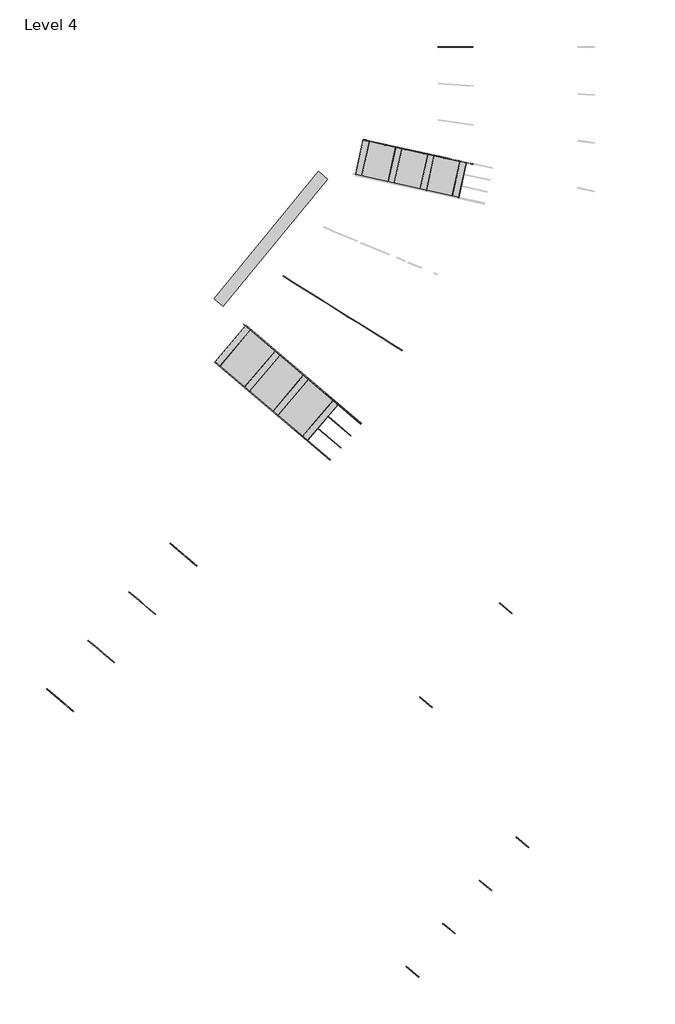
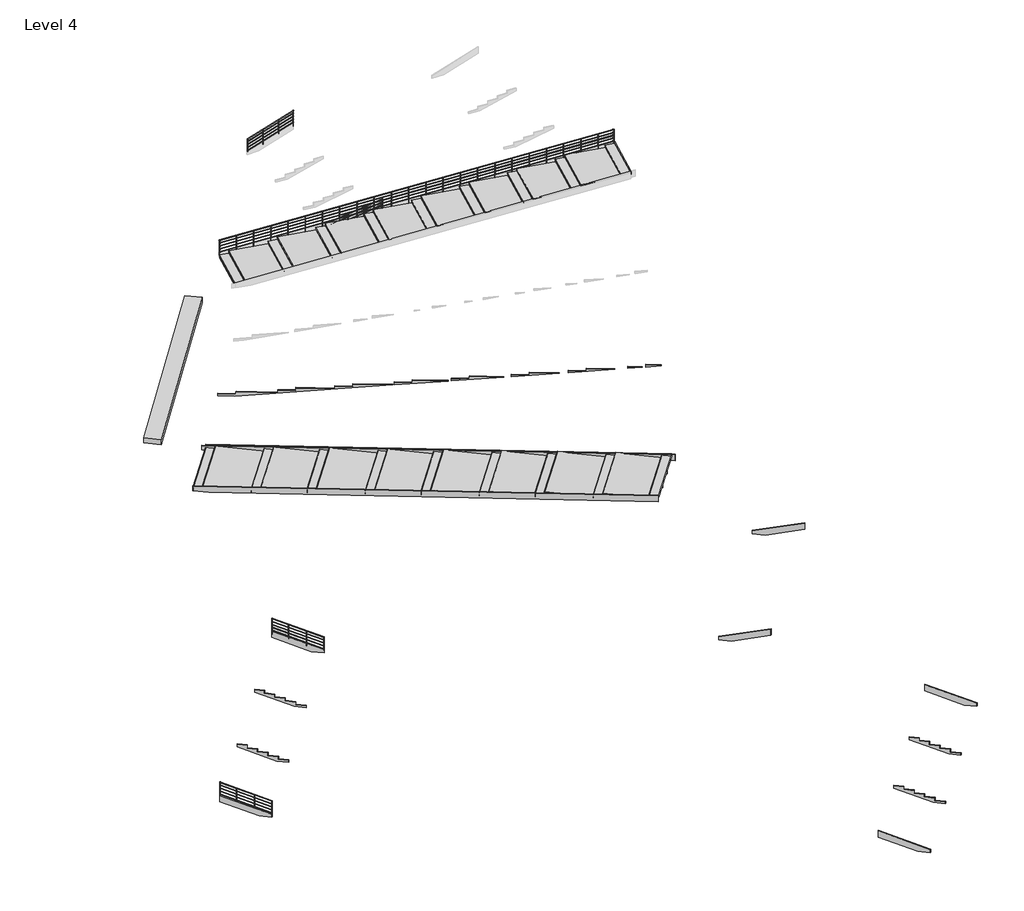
# One storey, part 1 of 2: 17 members, 5 railings, 2 stair flights, 1 proxy.
"""IFC4 building model written with IfcOpenShell, lengths in millimetres."""

from ifc_helpers import new_model, si_unit, frame, origin, place, context, project, spatial, polyline, outline, extrude, faceted_brep, transform, mapped, element, save
from components import generic_models_14_generic_models_14_6ee5034d, railing_900mm_pipe_257e322f, railing_900mm_pipe_814bd0ce, railing_900mm_pipe_d7eef6c1, railing_900mm_pipe_e4cdc1e3, railing_900mm_pipe_1ecdba98, stair_flight_1249d508, stair_flight_15943dde

model = new_model("IFC4")

# Units and contexts
model_context = context("Model", 3, world=origin())
ifc_project = project(units=[si_unit("LENGTHUNIT", "METRE", prefix="MILLI")], contexts=[model_context])

# Site, building, storey
site = spatial("IfcSite", under=ifc_project)
building = spatial("IfcBuilding", under=site)
storey = spatial("IfcBuildingStorey", under=building, Name="Level 4", Elevation=3000.0)

# Proxy
placement = place(None, origin())
generic_models_14_generic_models_14_shape = generic_models_14_generic_models_14_6ee5034d(model_context)
element("IfcBuildingElementProxy", 1, Name="Generic Models 14 : Generic Models 14", ObjectType="Generic Models 14 : Generic Models 14", at=placement, inside=storey, context=model_context, shape_type="MappedRepresentation", body=[
    mapped(generic_models_14_generic_models_14_shape, transform((0.0, 0.0, 0.0), x_axis=(1.0, 0.0, 0.0), y_axis=(0.0, 1.0, 0.0), z_axis=(0.0, 0.0, 1.0))),
])

# Members
element("IfcMember", 2, ObjectType="Stringer - Miscellaneous - 50 mm Width", at=placement, inside=storey, context=model_context, shape_type="SweptSolid", body=[
    extrude(outline(polyline([(-58.1070839, -190.6981195), (0.0, 0.0), (3075.6219351, 0.0), (2953.739068, -400.0), (628.7880817, -400.0), (-58.1070839, -190.6981195)])), frame((846515.9948346, 27064.2137533, 3199.3544732), z_axis=(0.65006726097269, 0.7598766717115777, 0.0), x_axis=(-0.7268813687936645, 0.6218400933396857, 0.2914761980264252)), (0.0, 0.0, 1.0), 50.0),
])
element("IfcMember", 3, ObjectType="Stringer - Miscellaneous - 50 mm Width", at=placement, inside=storey, context=model_context, shape_type="SweptSolid", body=[
    extrude(outline(polyline([(-58.1074437, -190.6980903), (0.0, 0.0), (3075.6040757, 0.0), (2953.7204351, -400.0), (628.7834588, -400.0), (-58.1074437, -190.6980903)])), frame((856959.1571419, 39359.5688976, 3199.3545501), z_axis=(0.6473560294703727, 0.7621877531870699, 0.0), x_axis=(-0.7290917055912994, 0.61924625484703, 0.2914778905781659)), (0.0, 0.0, 1.0), 50.0),
])
element("IfcMember", 4, ObjectType="Carriage - Miscellaneous - 50 mm Width", at=placement, inside=storey, context=model_context, shape_type="Brep", body=[
    faceted_brep([(853448.0074642, 35275.7955741, 3000.0), (852925.9778815, 35720.2440272, 3000.0), (852958.3909161, 35758.3149504, 3000.0), (853480.3752885, 35313.9049886, 3000.0), (851265.0083029, 37200.0364695, 3677.6677421), (851232.5952683, 37161.9655464, 3677.6677421), (851232.5952683, 37161.9655464, 3846.4705882), (851265.0083029, 37200.0364695, 3846.4705882), (853448.0074642, 35275.7955741, 3129.2941176), (852999.9803225, 35657.2394169, 3129.2941176), (852999.9803225, 35657.2394169, 3308.5882353), (852551.9531809, 36038.6832597, 3308.5882353), (852551.9531809, 36038.6832597, 3487.8823529), (852103.9260392, 36420.1271025, 3487.8823529), (852103.9260392, 36420.1271025, 3667.1764706), (851655.8988976, 36801.5709452, 3667.1764706), (851655.8988976, 36801.5709452, 3846.4705882), (851688.2667219, 36839.6803598, 3846.4705882), (851688.2667219, 36839.6803598, 3667.1764706), (852136.2938635, 36458.236517, 3667.1764706), (852136.2938635, 36458.236517, 3487.8823529), (852584.3210052, 36076.7926742, 3487.8823529), (852584.3210052, 36076.7926742, 3308.5882353), (853032.3481468, 35695.3488314, 3308.5882353), (853032.3481468, 35695.3488314, 3129.2941176), (853480.3752885, 35313.9049886, 3129.2941176)], [[[0, 1, 2, 3]], [[4, 5, 6, 7]], [[5, 4, 2, 1]], [[6, 5, 1, 0, 8, 9, 10, 11, 12, 13, 14, 15, 16]], [[16, 17, 7, 6]], [[4, 7, 17, 18, 19, 20, 21, 22, 23, 24, 25, 3, 2]], [[25, 8, 0, 3]], [[8, 25, 24, 9]], [[9, 24, 23, 10]], [[10, 23, 22, 11]], [[11, 22, 21, 12]], [[12, 21, 20, 13]], [[13, 20, 19, 14]], [[14, 19, 18, 15]], [[15, 18, 17, 16]]]),
])
element("IfcMember", 5, ObjectType="Carriage - Miscellaneous - 50 mm Width", at=placement, inside=storey, context=model_context, shape_type="Brep", body=[
    faceted_brep([(849977.8127663, 31190.0378466, 3000.0), (849456.2877829, 31635.1260171, 3000.0), (849488.7460047, 31673.1584222, 3000.0), (850010.1806591, 31228.1473417, 3000.0), (847797.0729615, 33116.8930156, 3677.6677916), (847764.6147396, 33078.8606105, 3677.6677916), (847764.6147396, 33078.8606105, 3846.4705882), (847797.0729615, 33116.8930156, 3846.4705882), (849977.8127663, 31190.0378466, 3129.2941176), (849530.2379673, 31572.0142711, 3129.2941176), (849530.2379673, 31572.0142711, 3308.5882353), (849082.6631683, 31953.9906956, 3308.5882353), (849082.6631683, 31953.9906956, 3487.8823529), (848635.0883692, 32335.9671201, 3487.8823529), (848635.0883692, 32335.9671201, 3667.1764706), (848187.5135702, 32717.9435446, 3667.1764706), (848187.5135702, 32717.9435446, 3846.4705882), (848219.8814629, 32756.0530398, 3846.4705882), (848219.8814629, 32756.0530398, 3667.1764706), (848667.456262, 32374.0766153, 3667.1764706), (848667.456262, 32374.0766153, 3487.8823529), (849115.031061, 31992.1001907, 3487.8823529), (849115.031061, 31992.1001907, 3308.5882353), (849562.6058601, 31610.1237662, 3308.5882353), (849562.6058601, 31610.1237662, 3129.2941176), (850010.1806591, 31228.1473417, 3129.2941176)], [[[0, 1, 2, 3]], [[4, 5, 6, 7]], [[5, 4, 2, 1]], [[6, 5, 1, 0, 8, 9, 10, 11, 12, 13, 14, 15, 16]], [[16, 17, 7, 6]], [[4, 7, 17, 18, 19, 20, 21, 22, 23, 24, 25, 3, 2]], [[25, 8, 0, 3]], [[8, 25, 24, 9]], [[9, 24, 23, 10]], [[10, 23, 22, 11]], [[11, 22, 21, 12]], [[12, 21, 20, 13]], [[13, 20, 19, 14]], [[14, 19, 18, 15]], [[15, 18, 17, 16]]]),
])
element("IfcMember", 6, ObjectType="Stringer - Miscellaneous - 50 mm Width", at=placement, inside=storey, context=model_context, shape_type="SweptSolid", body=[
    extrude(outline(polyline([(121.8836406, -399.9999999), (63.7761968, -209.3019097), (750.6670993, 0.0), (3075.6040757, 0.0), (3197.4877162, -399.9999999), (121.8836406, -399.9999999)])), frame((882504.4082818, 36212.7365184, 3781.1971374), z_axis=(0.6473560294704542, 0.7621877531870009, 0.0), x_axis=(0.7290917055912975, -0.6192462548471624, 0.29147789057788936)), (0.0, 0.0, 1.0), 50.0),
])
element("IfcMember", 7, ObjectType="Stringer - Miscellaneous - 50 mm Width", at=placement, inside=storey, context=model_context, shape_type="SweptSolid", body=[
    extrude(outline(polyline([(121.8836406, -399.9999999), (63.7761968, -209.3019097), (750.6670993, 0.0), (3075.6040757, 0.0), (3197.4877163, -399.9999999), (121.8836406, -399.9999999)])), frame((875772.6115094, 28286.815042, 3781.1971374), z_axis=(0.6473560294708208, 0.7621877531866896, 0.0), x_axis=(0.7290917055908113, -0.6192462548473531, 0.29147789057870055)), (0.0, 0.0, 1.0), 50.0),
])
element("IfcMember", 8, ObjectType="Stringer - Miscellaneous - 50 mm Width", at=placement, inside=storey, context=model_context, shape_type="SweptSolid", body=[
    extrude(outline(polyline([(-58.1074437, -190.6980903), (0.0, 0.0), (3075.6040757, 0.0), (2953.7204351, -400.0), (628.7834588, -400.0), (-58.1074437, -190.6980903)])), frame((875670.4873096, 4657.1836639, 4199.3545501), z_axis=(0.6473569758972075, 0.7621869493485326, 0.0), x_axis=(-0.7290909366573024, 0.619247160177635, 0.2914778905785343)), (0.0, 0.0, 1.0), 50.0),
])
element("IfcMember", 9, ObjectType="Stringer - Miscellaneous - 50 mm Width", at=placement, inside=storey, context=model_context, shape_type="SweptSolid", body=[
    extrude(outline(polyline([(-58.1074437, -190.6980903), (0.0, 0.0), (3075.6040757, 0.0), (2953.7204351, -400.0), (628.7834588, -400.0), (-58.1074437, -190.6980903)])), frame((884951.5275811, 15584.5479698, 4199.3545501), z_axis=(0.6473560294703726, 0.7621877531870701, 0.0), x_axis=(-0.729091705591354, 0.6192462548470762, 0.2914778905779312)), (0.0, 0.0, 1.0), 50.0),
])
element("IfcMember", 10, ObjectType="Carriage - Miscellaneous - 50 mm Width", at=placement, inside=storey, context=model_context, shape_type="Brep", body=[
    faceted_brep([(881827.6817795, 11956.7807044, 4000.0), (881305.1479015, 12400.5896463, 4000.0), (881337.5157187, 12438.6990206, 4000.0), (881860.049581, 11994.890092, 4000.0), (879642.4240492, 13878.4082375, 4677.6677256), (879610.0562319, 13840.2988633, 4677.6677256), (879610.0562319, 13840.2988633, 4846.4705882), (879642.4240492, 13878.4082375, 4846.4705882), (881827.6817795, 11956.7807044, 4129.2941176), (881379.2024529, 12337.6921511, 4129.2941176), (881379.2024529, 12337.6921511, 4308.5882353), (880930.7231263, 12718.6035977, 4308.5882353), (880930.7231263, 12718.6035977, 4487.8823529), (880482.2437997, 13099.5150444, 4487.8823529), (880482.2437997, 13099.5150444, 4667.1764706), (880033.7644731, 13480.4264911, 4667.1764706), (880033.7644731, 13480.4264911, 4846.4705882), (880066.1322746, 13518.5358788, 4846.4705882), (880066.1322746, 13518.5358788, 4667.1764706), (880514.6116012, 13137.6244321, 4667.1764706), (880514.6116012, 13137.6244321, 4487.8823529), (880963.0909278, 12756.7129854, 4487.8823529), (880963.0909278, 12756.7129854, 4308.5882353), (881411.5702544, 12375.8015387, 4308.5882353), (881411.5702544, 12375.8015387, 4129.2941176), (881860.049581, 11994.890092, 4129.2941176)], [[[0, 1, 2, 3]], [[4, 5, 6, 7]], [[5, 4, 2, 1]], [[6, 5, 1, 0, 8, 9, 10, 11, 12, 13, 14, 15, 16]], [[16, 17, 7, 6]], [[4, 7, 17, 18, 19, 20, 21, 22, 23, 24, 25, 3, 2]], [[25, 8, 0, 3]], [[8, 25, 24, 9]], [[9, 24, 23, 10]], [[10, 23, 22, 11]], [[11, 22, 21, 12]], [[12, 21, 20, 13]], [[13, 20, 19, 14]], [[14, 19, 18, 15]], [[15, 18, 17, 16]]]),
])
element("IfcMember", 11, ObjectType="Carriage - Miscellaneous - 50 mm Width", at=placement, inside=storey, context=model_context, shape_type="Brep", body=[
    faceted_brep([(878744.7909807, 8327.0290618, 4000.0), (878222.2572785, 8770.8382267, 4000.0), (878254.6251115, 8808.9475876, 4000.0), (878777.1587821, 8365.1384495, 4000.0), (876559.5340378, 10248.6575062, 4677.6677256), (876527.1662048, 10210.5481453, 4677.6677256), (876527.1662048, 10210.5481453, 4846.4705882), (876559.5340378, 10248.6575062, 4846.4705882), (878744.7909807, 8327.0290618, 4129.2941176), (878296.3118117, 8707.9406941, 4129.2941176), (878296.3118117, 8707.9406941, 4308.5882353), (877847.8326428, 9088.8523264, 4308.5882353), (877847.8326428, 9088.8523264, 4487.8823529), (877399.3534739, 9469.7639588, 4487.8823529), (877399.3534739, 9469.7639588, 4667.1764706), (876950.874305, 9850.6755911, 4667.1764706), (876950.874305, 9850.6755911, 4846.4705882), (876983.2421064, 9888.7849787, 4846.4705882), (876983.2421064, 9888.7849787, 4667.1764706), (877431.7212754, 9507.8733464, 4667.1764706), (877431.7212754, 9507.8733464, 4487.8823529), (877880.2004443, 9126.9617141, 4487.8823529), (877880.2004443, 9126.9617141, 4308.5882353), (878328.6796132, 8746.0500818, 4308.5882353), (878328.6796132, 8746.0500818, 4129.2941176), (878777.1587821, 8365.1384495, 4129.2941176)], [[[0, 1, 2, 3]], [[4, 5, 6, 7]], [[5, 4, 2, 1]], [[6, 5, 1, 0, 8, 9, 10, 11, 12, 13, 14, 15, 16]], [[16, 17, 7, 6]], [[4, 7, 17, 18, 19, 20, 21, 22, 23, 24, 25, 3, 2]], [[25, 8, 0, 3]], [[8, 25, 24, 9]], [[9, 24, 23, 10]], [[10, 23, 22, 11]], [[11, 22, 21, 12]], [[12, 21, 20, 13]], [[13, 20, 19, 14]], [[14, 19, 18, 15]], [[15, 18, 17, 16]]]),
])
element("IfcMember", 12, ObjectType="Stringer - Miscellaneous - 50 mm Width", at=placement, inside=storey, context=model_context, shape_type="SweptSolid", body=[
    extrude(outline(polyline([(40.4515471, -400.0000001), (9.1837132, -90.8119843), (907.1665169, 0.0), (26328.8305137, -1e-07), (26369.2820608, -400.0000001), (40.4515471, -400.0000001)])), frame((861096.7329351, 59636.0530293, 2908.7248277), z_axis=(0.6473560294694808, 0.7621877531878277, 0.0), x_axis=(0.7583199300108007, -0.644070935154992, 0.10061567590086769)), (0.0, 0.0, 1.0), 50.0),
])
element("IfcMember", 13, ObjectType="Stringer - Miscellaneous - 50 mm Width", at=placement, inside=storey, context=model_context, shape_type="SweptSolid", body=[
    extrude(outline(polyline([(40.4515471, -400.0000001), (9.1837132, -90.8119843), (907.1665169, 0.0), (26328.8305137, -1e-07), (26369.2820608, -400.0000001), (40.4515471, -400.0000001)])), frame((858478.4514521, 56553.3257666, 2908.7248277), z_axis=(0.6473560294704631, 0.7621877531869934, 0.0), x_axis=(0.7583199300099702, -0.6440709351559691, 0.10061567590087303)), (0.0, 0.0, 1.0), 50.0),
])
element("IfcMember", 14, ObjectType="Carriage - Miscellaneous - 50 mm Width", at=placement, inside=storey, context=model_context, shape_type="SweptSolid", body=[
    extrude(outline(polyline([(26328.8305137, -1e-07), (26356.0821449, -269.4743031), (25851.7778163, -320.4740289), (25834.7402285, -152.0), (23382.4236408, -400.0), (23250.4060026, -400.0), (23234.7048973, -244.7416086), (22698.0654944, -299.0113438), (22681.0279066, -130.537315), (20016.4802762, -400.0000001), (19955.2721091, -400.0000001), (19938.854163, -237.6532202), (19402.2147601, -291.9229554), (19385.1771723, -123.4489267), (16802.1794288, -384.664564), (16785.1418411, -216.1905352), (16248.5024381, -270.4602704), (16231.4648503, -101.9862416), (13506.3286946, -377.5761756), (13489.2911068, -209.1021468), (12952.6517039, -263.3718821), (12935.6141161, -94.8978533), (10352.6163727, -356.1134906), (10335.5787849, -187.6394617), (9798.9393819, -241.909197), (9781.9017941, -73.4351682), (7056.7656385, -349.0251022), (7039.7280507, -180.5510735), (6503.0886477, -234.8208087), (6486.0510599, -66.3467798), (3903.0533165, -327.5624172), (3886.0157287, -159.0883884), (3349.3763258, -213.3581236), (3332.338738, -44.8840949), (607.2025823, -320.4740289), (590.1649945, -152.0), (53.5255915, -206.2697352), (41.5187876, -87.5419748), (907.1665169, 0.0), (26328.8305137, -1e-07)])), frame((859356.60658, 57587.2530854, 2908.7248277), z_axis=(0.6473560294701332, 0.7621877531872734, 0.0), x_axis=(0.7583199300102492, -0.6440709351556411, 0.1006156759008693)), (0.0, 0.0, 1.0), 50.0),
])
element("IfcMember", 15, ObjectType="Carriage - Miscellaneous - 50 mm Width", at=placement, inside=storey, context=model_context, shape_type="SweptSolid", body=[
    extrude(outline(polyline([(26328.8305137, -1e-07), (26356.0821449, -269.4743031), (25851.7778164, -320.4740289), (25834.7402286, -152.0), (23382.4236408, -400.0), (23250.4060026, -400.0), (23234.7048973, -244.7416086), (22698.0654943, -299.0113438), (22681.0279065, -130.537315), (20016.4802762, -400.0000001), (19955.2721091, -400.0000001), (19938.854163, -237.6532202), (19402.2147601, -291.9229554), (19385.1771723, -123.4489267), (16802.1794289, -384.664564), (16785.1418411, -216.1905352), (16248.5024381, -270.4602704), (16231.4648503, -101.9862416), (13506.3286947, -377.5761756), (13489.2911069, -209.1021468), (12952.6517039, -263.3718821), (12935.6141161, -94.8978533), (10352.6163727, -356.1134906), (10335.5787849, -187.6394617), (9798.939382, -241.909197), (9781.9017942, -73.4351682), (7056.7656385, -349.0251022), (7039.7280507, -180.5510735), (6503.0886478, -234.8208087), (6486.05106, -66.3467798), (3903.0533165, -327.5624172), (3886.0157288, -159.0883884), (3349.3763258, -213.3581236), (3332.338738, -44.8840949), (607.2025823, -320.4740289), (590.1649945, -152.0), (53.5255916, -206.2697352), (41.5187876, -87.5419748), (907.1665169, 0.0), (26328.8305137, -1e-07)])), frame((860218.5778072, 58602.1257105, 2908.7248277), z_axis=(0.6473560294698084, 0.7621877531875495, 0.0), x_axis=(0.7583199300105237, -0.644070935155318, 0.1006156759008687)), (0.0, 0.0, 1.0), 50.0),
])
element("IfcMember", 16, ObjectType="Stringer - Miscellaneous - 50 mm Width", at=placement, inside=storey, context=model_context, shape_type="SweptSolid", body=[
    extrude(outline(polyline([(41.1923557, -400.0), (14.2266569, -138.148515), (1355.7232777, 0.0), (26787.8426375, 0.0), (26829.0349933, -400.0), (41.1923557, -400.0)])), frame((860897.0147245, 59740.0809246, 2861.12088), z_axis=(0.6473560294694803, 0.762187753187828, 0.0), x_axis=(0.7581780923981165, -0.6439504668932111, 0.10243913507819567)), (0.0, 0.0, 1.0), 50.0),
])
element("IfcMember", 17, ObjectType="Carriage - Miscellaneous - 50 mm Width", at=placement, inside=storey, context=model_context, shape_type="Brep", body=[
    faceted_brep([(864296.1487949, 63831.5174926, 3000.0), (865085.8968341, 63338.4992326, 3000.0), (865059.4190686, 63296.085462, 3000.0), (864264.1738693, 63792.5354498, 3000.0), (872517.0662208, 58699.4219335, 3966.0), (872490.5884553, 58657.0081629, 3966.0), (864296.1487949, 63831.5174926, 3119.3333333), (865143.7599391, 63302.3768671, 3119.3333333), (865143.7599391, 63302.3768671, 3288.6666667), (867099.9938077, 62081.1531728, 3288.6666667), (867099.9938077, 62081.1531728, 3458.0), (867947.6049519, 61552.0125472, 3458.0), (867947.6049519, 61552.0125472, 3627.3333333), (869781.6556503, 60407.0644889, 3627.3333333), (869781.6556503, 60407.0644889, 3796.6666667), (870629.2667945, 59877.9238634, 3796.6666667), (870629.2667945, 59877.9238634, 3966.0), (870597.2918689, 59838.9418206, 3966.0), (870597.2918689, 59838.9418206, 3796.6666667), (869749.6807247, 60368.0824462, 3796.6666667), (869749.6807247, 60368.0824462, 3627.3333333), (867915.6300263, 61513.0305045, 3627.3333333), (867915.6300263, 61513.0305045, 3458.0), (867068.0188821, 62042.17113, 3458.0), (867068.0188821, 62042.17113, 3288.6666667), (865111.7850135, 63263.3948243, 3288.6666667), (865111.7850135, 63263.3948243, 3119.3333333), (864264.1738693, 63792.5354498, 3119.3333333)], [[[0, 1, 2, 3]], [[1, 4, 5, 2]], [[4, 1, 0, 6, 7, 8, 9, 10, 11, 12, 13, 14, 15, 16]], [[2, 5, 17, 18, 19, 20, 21, 22, 23, 24, 25, 26, 27, 3]], [[27, 6, 0, 3]], [[6, 27, 26, 7]], [[7, 26, 25, 8]], [[8, 25, 24, 9]], [[9, 24, 23, 10]], [[10, 23, 22, 11]], [[11, 22, 21, 12]], [[12, 21, 20, 13]], [[13, 20, 19, 14]], [[14, 19, 18, 15]], [[15, 18, 17, 16]], [[16, 17, 5, 4]]]),
    faceted_brep([(885098.1131374, 50786.4727858, 5604.8899525), (885124.5909029, 50828.8865564, 5604.8899525), (885124.5909029, 50828.8865564, 5659.3333333), (885098.1131374, 50786.4727858, 5659.3333333), (884372.1505925, 51239.6714935, 5510.5199036), (884404.1255181, 51278.6535362, 5511.2344959), (884404.1255181, 51278.6535362, 5659.3333333), (884372.1505925, 51239.6714935, 5659.3333333)], [[[0, 1, 2, 3]], [[1, 0, 4, 5]], [[2, 1, 5, 6]], [[6, 7, 3, 2]], [[0, 3, 7, 4]], [[7, 6, 5, 4]]]),
    faceted_brep([(872585.500663, 58656.7001691, 3974.8959984), (875122.3347152, 57073.0235429, 4304.6666667), (875095.8569498, 57030.6097723, 4304.6666667), (872553.5257375, 58617.7181263, 3974.1814061), (872585.500663, 58656.7001691, 4135.3333333), (873433.1118073, 58127.5595436, 4135.3333333), (873433.1118073, 58127.5595436, 4304.6666667), (873401.1368817, 58088.5775008, 4304.6666667), (873401.1368817, 58088.5775008, 4135.3333333), (872553.5257375, 58617.7181263, 4135.3333333)], [[[0, 1, 2, 3]], [[1, 0, 4, 5, 6]], [[3, 2, 7, 8, 9]], [[9, 4, 0, 3]], [[4, 9, 8, 5]], [[5, 8, 7, 6]], [[6, 7, 2, 1]]]),
    faceted_brep([(875267.1625056, 56982.6114853, 4323.4932656), (877727.6032097, 55446.6251523, 4643.3333333), (877701.1254442, 55404.2113817, 4643.3333333), (875235.18758, 56943.6294425, 4322.7786733), (875267.1625056, 56982.6114853, 4474.0), (876114.7736499, 56453.4708597, 4474.0), (876114.7736499, 56453.4708597, 4643.3333333), (876082.7987243, 56414.488817, 4643.3333333), (876082.7987243, 56414.488817, 4474.0), (875235.18758, 56943.6294425, 4474.0)], [[[0, 1, 2, 3]], [[1, 0, 4, 5, 6]], [[3, 2, 7, 8, 9]], [[9, 4, 0, 3]], [[4, 9, 8, 5]], [[5, 8, 7, 6]], [[6, 7, 2, 1]]]),
    faceted_brep([(878071.0075184, 55232.2471654, 4687.9734895), (880332.8717041, 53820.2267617, 4982.0), (880306.3939386, 53777.8129911, 4982.0), (878039.0325928, 55193.2651227, 4687.2588972), (878071.0075184, 55232.2471654, 4812.6666667), (878918.6186627, 54703.1065399, 4812.6666667), (878918.6186627, 54703.1065399, 4982.0), (878886.6437371, 54664.1244971, 4982.0), (878886.6437371, 54664.1244971, 4812.6666667), (878039.0325928, 55193.2651227, 4812.6666667)], [[[0, 1, 2, 3]], [[1, 0, 4, 5, 6]], [[3, 2, 7, 8, 9]], [[9, 4, 0, 3]], [[4, 9, 8, 5]], [[5, 8, 7, 6]], [[6, 7, 2, 1]]]),
    faceted_brep([(880752.669361, 53558.1584816, 5036.5707567), (882938.1401986, 52193.8283711, 5320.6666667), (882911.6624331, 52151.4146006, 5320.6666667), (880720.6944354, 53519.1764388, 5035.8561644), (880752.669361, 53558.1584816, 5151.3333333), (881600.2805053, 53029.0178561, 5151.3333333), (881600.2805053, 53029.0178561, 5320.6666667), (881568.3055797, 52990.0358133, 5320.6666667), (881568.3055797, 52990.0358133, 5151.3333333), (880720.6944354, 53519.1764388, 5151.3333333)], [[[0, 1, 2, 3]], [[1, 0, 4, 5, 6]], [[3, 2, 7, 8, 9]], [[9, 4, 0, 3]], [[4, 9, 8, 5]], [[5, 8, 7, 6]], [[6, 7, 2, 1]]]),
    faceted_brep([(883556.5143738, 51807.7941618, 5401.0509807), (884240.7744458, 51380.6291758, 5490.0), (884214.2966803, 51338.2154053, 5490.0), (883524.5394482, 51768.812119, 5400.3363883), (883556.5143738, 51807.7941618, 5490.0), (883524.5394482, 51768.812119, 5490.0)], [[[0, 1, 2, 3]], [[1, 0, 4]], [[3, 2, 5]], [[5, 4, 0, 3]], [[4, 5, 2, 1]]]),
])
element("IfcMember", 18, ObjectType="Carriage - Miscellaneous - 50 mm Width", at=placement, inside=storey, context=model_context, shape_type="Brep", body=[
    faceted_brep([(864296.1487949, 63831.5174926, 3000.0), (865085.8968341, 63338.4992326, 3000.0), (865059.4190686, 63296.085462, 3000.0), (864264.1738693, 63792.5354498, 3000.0), (872517.0662208, 58699.4219335, 3966.0), (872490.5884553, 58657.0081629, 3966.0), (864296.1487949, 63831.5174926, 3119.3333333), (865143.7599391, 63302.3768671, 3119.3333333), (865143.7599391, 63302.3768671, 3288.6666667), (867099.9938077, 62081.1531728, 3288.6666667), (867099.9938077, 62081.1531728, 3458.0), (867947.6049519, 61552.0125472, 3458.0), (867947.6049519, 61552.0125472, 3627.3333333), (869781.6556503, 60407.0644889, 3627.3333333), (869781.6556503, 60407.0644889, 3796.6666667), (870629.2667945, 59877.9238634, 3796.6666667), (870629.2667945, 59877.9238634, 3966.0), (870597.2918689, 59838.9418206, 3966.0), (870597.2918689, 59838.9418206, 3796.6666667), (869749.6807247, 60368.0824462, 3796.6666667), (869749.6807247, 60368.0824462, 3627.3333333), (867915.6300263, 61513.0305045, 3627.3333333), (867915.6300263, 61513.0305045, 3458.0), (867068.0188821, 62042.17113, 3458.0), (867068.0188821, 62042.17113, 3288.6666667), (865111.7850135, 63263.3948243, 3288.6666667), (865111.7850135, 63263.3948243, 3119.3333333), (864264.1738693, 63792.5354498, 3119.3333333)], [[[0, 1, 2, 3]], [[1, 4, 5, 2]], [[4, 1, 0, 6, 7, 8, 9, 10, 11, 12, 13, 14, 15, 16]], [[2, 5, 17, 18, 19, 20, 21, 22, 23, 24, 25, 26, 27, 3]], [[27, 6, 0, 3]], [[6, 27, 26, 7]], [[7, 26, 25, 8]], [[8, 25, 24, 9]], [[9, 24, 23, 10]], [[10, 23, 22, 11]], [[11, 22, 21, 12]], [[12, 21, 20, 13]], [[13, 20, 19, 14]], [[14, 19, 18, 15]], [[15, 18, 17, 16]], [[16, 17, 5, 4]]]),
    faceted_brep([(885098.1131374, 50786.4727858, 5604.8899525), (885124.5909029, 50828.8865564, 5604.8899525), (885124.5909029, 50828.8865564, 5659.3333333), (885098.1131374, 50786.4727858, 5659.3333333), (884372.1505925, 51239.6714935, 5510.5199036), (884404.1255181, 51278.6535362, 5511.2344959), (884404.1255181, 51278.6535362, 5659.3333333), (884372.1505925, 51239.6714935, 5659.3333333)], [[[0, 1, 2, 3]], [[1, 0, 4, 5]], [[2, 1, 5, 6]], [[6, 7, 3, 2]], [[0, 3, 7, 4]], [[7, 6, 5, 4]]]),
    faceted_brep([(872585.500663, 58656.7001691, 3974.8959984), (875122.3347152, 57073.0235429, 4304.6666667), (875095.8569498, 57030.6097723, 4304.6666667), (872553.5257375, 58617.7181263, 3974.1814061), (872585.500663, 58656.7001691, 4135.3333333), (873433.1118073, 58127.5595436, 4135.3333333), (873433.1118073, 58127.5595436, 4304.6666667), (873401.1368817, 58088.5775008, 4304.6666667), (873401.1368817, 58088.5775008, 4135.3333333), (872553.5257375, 58617.7181263, 4135.3333333)], [[[0, 1, 2, 3]], [[1, 0, 4, 5, 6]], [[3, 2, 7, 8, 9]], [[9, 4, 0, 3]], [[4, 9, 8, 5]], [[5, 8, 7, 6]], [[6, 7, 2, 1]]]),
    faceted_brep([(875267.1625056, 56982.6114853, 4323.4932656), (877727.6032097, 55446.6251523, 4643.3333333), (877701.1254442, 55404.2113817, 4643.3333333), (875235.18758, 56943.6294425, 4322.7786733), (875267.1625056, 56982.6114853, 4474.0), (876114.7736499, 56453.4708597, 4474.0), (876114.7736499, 56453.4708597, 4643.3333333), (876082.7987243, 56414.488817, 4643.3333333), (876082.7987243, 56414.488817, 4474.0), (875235.18758, 56943.6294425, 4474.0)], [[[0, 1, 2, 3]], [[1, 0, 4, 5, 6]], [[3, 2, 7, 8, 9]], [[9, 4, 0, 3]], [[4, 9, 8, 5]], [[5, 8, 7, 6]], [[6, 7, 2, 1]]]),
    faceted_brep([(878071.0075184, 55232.2471654, 4687.9734895), (880332.8717041, 53820.2267617, 4982.0), (880306.3939386, 53777.8129911, 4982.0), (878039.0325928, 55193.2651227, 4687.2588972), (878071.0075184, 55232.2471654, 4812.6666667), (878918.6186627, 54703.1065399, 4812.6666667), (878918.6186627, 54703.1065399, 4982.0), (878886.6437371, 54664.1244971, 4982.0), (878886.6437371, 54664.1244971, 4812.6666667), (878039.0325928, 55193.2651227, 4812.6666667)], [[[0, 1, 2, 3]], [[1, 0, 4, 5, 6]], [[3, 2, 7, 8, 9]], [[9, 4, 0, 3]], [[4, 9, 8, 5]], [[5, 8, 7, 6]], [[6, 7, 2, 1]]]),
    faceted_brep([(880752.669361, 53558.1584816, 5036.5707567), (882938.1401986, 52193.8283711, 5320.6666667), (882911.6624331, 52151.4146006, 5320.6666667), (880720.6944354, 53519.1764388, 5035.8561644), (880752.669361, 53558.1584816, 5151.3333333), (881600.2805053, 53029.0178561, 5151.3333333), (881600.2805053, 53029.0178561, 5320.6666667), (881568.3055797, 52990.0358133, 5320.6666667), (881568.3055797, 52990.0358133, 5151.3333333), (880720.6944354, 53519.1764388, 5151.3333333)], [[[0, 1, 2, 3]], [[1, 0, 4, 5, 6]], [[3, 2, 7, 8, 9]], [[9, 4, 0, 3]], [[4, 9, 8, 5]], [[5, 8, 7, 6]], [[6, 7, 2, 1]]]),
    faceted_brep([(883556.5143738, 51807.7941618, 5401.0509807), (884240.7744458, 51380.6291758, 5490.0), (884214.2966803, 51338.2154053, 5490.0), (883524.5394482, 51768.812119, 5400.3363883), (883556.5143738, 51807.7941618, 5490.0), (883524.5394482, 51768.812119, 5490.0)], [[[0, 1, 2, 3]], [[1, 0, 4]], [[3, 2, 5]], [[5, 4, 0, 3]], [[4, 5, 2, 1]]]),
])

# Railings
railing_900mm_pipe_shape = railing_900mm_pipe_257e322f(model_context)
element("IfcRailing", 19, ObjectType="900mm Pipe", at=placement, inside=storey, context=model_context, shape_type="MappedRepresentation", body=[
    mapped(railing_900mm_pipe_shape, transform((0.0, 0.0, 0.0), x_axis=(1.0, 0.0, 0.0), y_axis=(0.0, 1.0, 0.0), z_axis=(0.0, 0.0, 1.0))),
])
railing_900mm_pipe_2_shape = railing_900mm_pipe_814bd0ce(model_context)
element("IfcRailing", 20, ObjectType="900mm Pipe", at=placement, inside=storey, context=model_context, shape_type="MappedRepresentation", body=[
    mapped(railing_900mm_pipe_2_shape, transform((0.0, 0.0, 0.0), x_axis=(1.0, 0.0, 0.0), y_axis=(0.0, 1.0, 0.0), z_axis=(0.0, 0.0, 1.0))),
])
railing_900mm_pipe_3_shape = railing_900mm_pipe_d7eef6c1(model_context)
element("IfcRailing", 21, ObjectType="900mm Pipe", at=placement, inside=storey, context=model_context, shape_type="MappedRepresentation", body=[
    mapped(railing_900mm_pipe_3_shape, transform((0.0, 0.0, 0.0), x_axis=(1.0, 0.0, 0.0), y_axis=(0.0, 1.0, 0.0), z_axis=(0.0, 0.0, 1.0))),
])
railing_900mm_pipe_4_shape = railing_900mm_pipe_e4cdc1e3(model_context)
element("IfcRailing", 22, ObjectType="900mm Pipe", at=placement, inside=storey, context=model_context, shape_type="MappedRepresentation", body=[
    mapped(railing_900mm_pipe_4_shape, transform((0.0, 0.0, 0.0), x_axis=(1.0, 0.0, 0.0), y_axis=(0.0, 1.0, 0.0), z_axis=(0.0, 0.0, 1.0))),
])
railing_900mm_pipe_5_shape = railing_900mm_pipe_1ecdba98(model_context)
element("IfcRailing", 23, ObjectType="900mm Pipe", at=placement, inside=storey, context=model_context, shape_type="MappedRepresentation", body=[
    mapped(railing_900mm_pipe_5_shape, transform((0.0, 0.0, 0.0), x_axis=(1.0, 0.0, 0.0), y_axis=(0.0, 1.0, 0.0), z_axis=(0.0, 0.0, 1.0))),
])

# Stair flights
stair_flight_shape = stair_flight_1249d508(model_context)
element("IfcStairFlight", 24, ObjectType="Wood Steps with 50 mm Tread 20 mm Nosing 13 mm Riser", at=placement, inside=storey, context=model_context, shape_type="MappedRepresentation", body=[
    mapped(stair_flight_shape, transform((0.0, 0.0, 0.0), x_axis=(1.0, 0.0, 0.0), y_axis=(0.0, 1.0, 0.0), z_axis=(0.0, 0.0, 1.0))),
])
stair_flight_2_shape = stair_flight_15943dde(model_context)
element("IfcStairFlight", 25, ObjectType="Wood Steps with 50 mm Tread 20 mm Nosing 13 mm Riser", at=placement, inside=storey, context=model_context, shape_type="MappedRepresentation", body=[
    mapped(stair_flight_2_shape, transform((0.0, 0.0, 0.0), x_axis=(1.0, 0.0, 0.0), y_axis=(0.0, 1.0, 0.0), z_axis=(0.0, 0.0, 1.0))),
])

save(model, "model.ifc")
